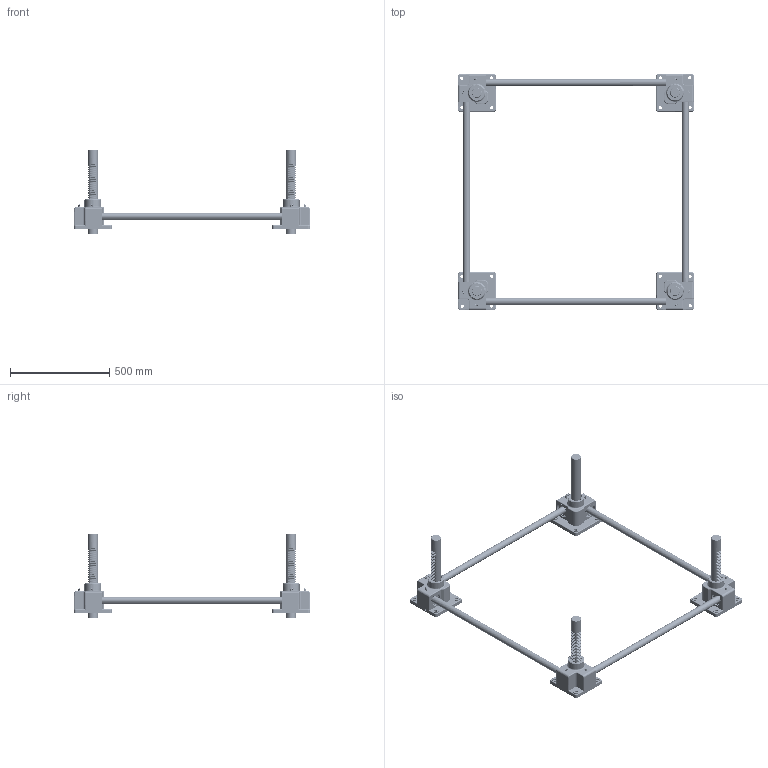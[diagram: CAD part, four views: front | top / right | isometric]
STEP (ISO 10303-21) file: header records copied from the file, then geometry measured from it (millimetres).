
FILE_DESCRIPTION(('STEP AP203'),'1');
FILE_NAME('SP10000U-1000x1000-250ST.stp','2022-06-15T02:15:27',(' '),(' '),'Spatial InterOp 3D',' ',' ');
FILE_SCHEMA(('CONFIG_CONTROL_DESIGN'));
Length unit declared in the file: millimetre
Products named in the file (75): SP10000U-1000x1000-250ST; ASSEM1; Body.1-Part; SnapRing-68Pie; SnapRing-75Pie; #1963; #1980; #1997; #2014; Nipple; Gear Box.1(NSP-10000); RJ05-4SCJ-610X600-100ST_CAP; LABEL-B.1; ___; 파트18; __; Body.2-Part; #2282; #2299; #2316; #2333; Gear Box.2(NSP-10000); Body.3-Part; #2567; #2584; #2601; #2618; Gear Box.3(NSP-10000); Body.4-Part; #2852; #2869; #2886; #2903; Gear Box.4(NSP-10000); Shaft.1; Shaft.2
Assembly tree (76 placements, depth 6):
  SP10000U-1000x1000-250ST
    ASSEM1
    (unnamed)
    (unnamed)
    (unnamed)
    Body.1-Part
      SnapRing-68Pie
      SnapRing-68Pie
      SnapRing-75Pie
      SnapRing-75Pie
      #1963
      #1980
      #1997
      #2014
      Nipple
      Nipple
      Gear Box.1(NSP-10000)
      __
        ___
          RJ05-4SCJ-610X600-100ST_CAP
            LABEL-B.1
          파트18
    Body.2-Part
      Nipple
      Nipple
      SnapRing-68Pie
      SnapRing-68Pie
      SnapRing-75Pie
      SnapRing-75Pie
      #2282
      #2299
      #2316
      #2333
      Gear Box.2(NSP-10000)
      __
        ___
          RJ05-4SCJ-610X600-100ST_CAP
            LABEL-B.1
          파트18
    Body.3-Part
      Nipple
      Nipple
      SnapRing-68Pie
      SnapRing-68Pie
      SnapRing-75Pie
      SnapRing-75Pie
      #2567
      #2584
      #2601
      #2618
      Gear Box.3(NSP-10000)
      __
        ___
          RJ05-4SCJ-610X600-100ST_CAP
            LABEL-B.1
          파트18
    Body.4-Part
      Nipple
      Nipple
      SnapRing-68Pie
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Bounding box: 1191.19 x 1191.19 x 425 mm (x, y, z)
Volume: 12820005.5 mm3; surface area: 2014324.6 mm2
Topology: 84 solids, 84 shells, 9932 faces, 27239 edges, 17391 vertices
Faces by surface type: plane 7604, cylinder 1288, sphere 384, torus 248, revolution 168, extrusion 152, bspline 56, cone 32
Full cylindrical faces by diameter (mm): 3.817 x16, 4.211 x16, 4.8 x8, 8 x8, 9.886 x8, 16 x16, 18 x4, 29 x8, 30 x16, 35 x12, 39 x8, 44.54 x16, 50 x12, 55 x4, 60 x16, 62.72 x16, 65 x8, 68 x8, 72 x16, 72.4 x8, 75 x8, 84 x4
Entity records: 317118 total; most frequent: CARTESIAN_POINT 66871, ORIENTED_EDGE 51944, DIRECTION 48326, EDGE_CURVE 25972, VECTOR 21704, LINE 21552, VERTEX_POINT 17012, AXIS2_PLACEMENT_3D 13227
